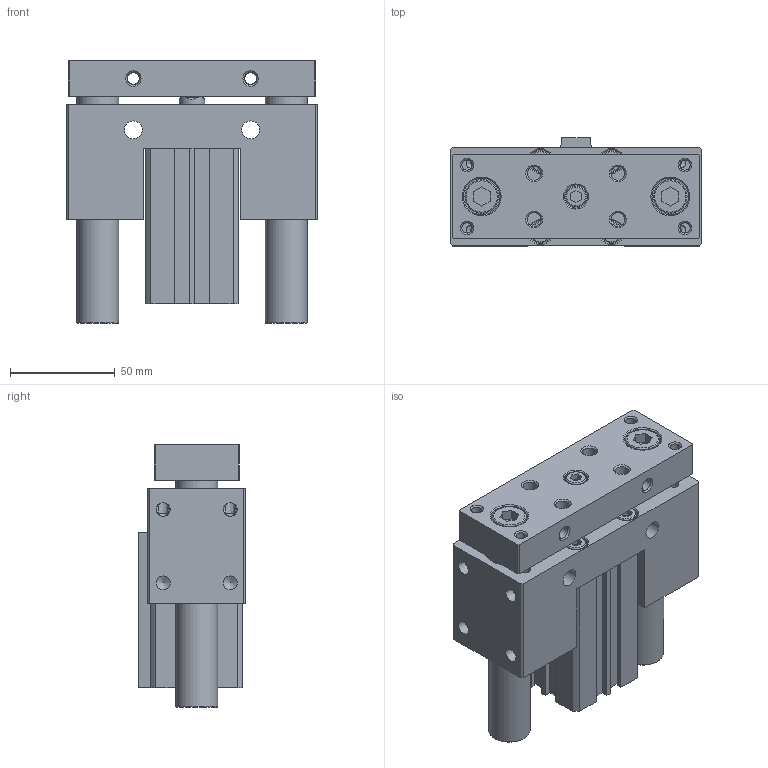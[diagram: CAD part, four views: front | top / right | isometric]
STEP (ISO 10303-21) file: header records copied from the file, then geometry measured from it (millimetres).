
FILE_DESCRIPTION((''),'2;1');
FILE_NAME('I:\3D電子目錄\氣缸\JCB\JCB\JCB32\JCB32x50.stp','2007-08-21T20:25:54',('Administrator'),(''),'Autodesk Inventor 11','Autodesk Inventor 11','');
FILE_SCHEMA(('AUTOMOTIVE_DESIGN { 1 0 10303 214 1 1 1 1 }'));
Length unit declared in the file: millimetre
Products named in the file (1): JCB32
Bounding box: 120 x 51.5 x 125.4 mm (x, y, z)
Volume: 445274.5 mm3; surface area: 106367.3 mm2
Topology: 3 solids, 3 shells, 320 faces, 754 edges, 489 vertices
Faces by surface type: plane 173, cylinder 53, bspline 45, cone 41, torus 8
Full cylindrical faces by diameter (mm): 2.2 x1, 5.1 x4, 6 x2, 6.647 x4, 8 x8, 10 x5, 11 x5, 12 x1, 13 x1, 16 x2, 17.5 x2, 20 x2, 22 x1, 23 x3, 34 x4, 36 x2
Entity records: 9272 total; most frequent: CARTESIAN_POINT 2540, DIRECTION 1340, ORIENTED_EDGE 1192, EDGE_CURVE 596, EDGE_LOOP 534, AXIS2_PLACEMENT_3D 492, VERTEX_POINT 458, VECTOR 356
